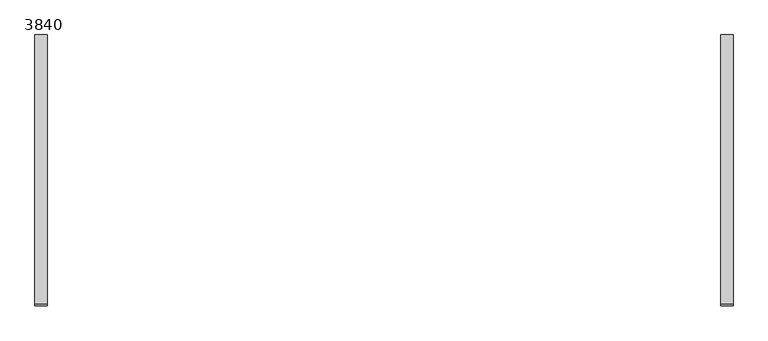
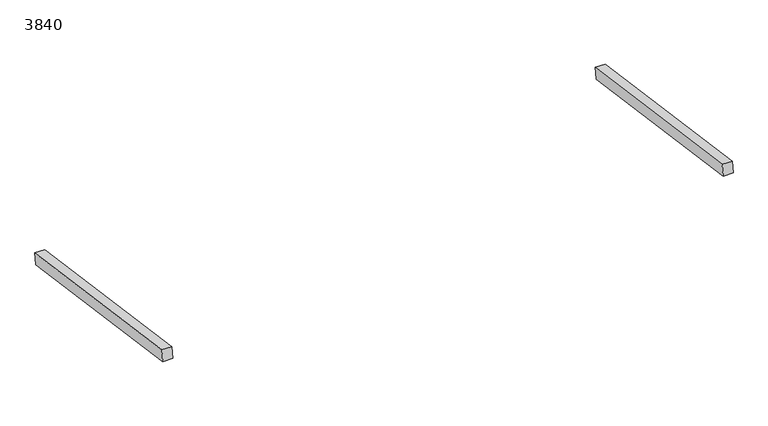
"""IFC4 building model written with IfcOpenShell, lengths in millimetres: proxy geometry, ViVa Roof Closure : 3840."""

from ifc_helpers import new_model, si_unit, frame, origin, place, context, project, spatial, polyline, outline, extrude, source, transform, mapped, element, save


def proxy_3840_485bb6b7(model_context):
    return source(origin(), model_context, "Body", "SweptSolid", [
        extrude(outline(polyline([(0.0, -70.0), (0.0, 0.0), (1550.0, 0.0), (1550.0, -70.0), (0.0, -70.0)])), frame((3840.0, -1534.9155065, 215.7183065), z_axis=(0.0, 0.13917310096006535, 0.9902680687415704), x_axis=(0.0, 0.9902680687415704, -0.13917310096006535)), (0.0, 0.0, 1.0), 80.0),
        extrude(outline(polyline([(0.0, -70.0), (0.0, 0.0), (1550.0, 0.0), (1550.0, -70.0), (0.0, -70.0)])), frame((-70.0, -1534.9155065, 215.7183065), z_axis=(0.0, 0.13917310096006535, 0.9902680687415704), x_axis=(0.0, 0.9902680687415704, -0.13917310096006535)), (0.0, 0.0, 1.0), 80.0),
    ])


if __name__ == "__main__":
    model = new_model("IFC4")
    model_context = context("Model", 3, world=origin())
    ifc_project = project(units=[si_unit("LENGTHUNIT", "METRE", prefix="MILLI")], contexts=[model_context])
    site = spatial("IfcSite", under=ifc_project)
    building = spatial("IfcBuilding", under=site)
    placement = place(None, origin())
    proxy_3840_shape = proxy_3840_485bb6b7(model_context)
    element("IfcBuildingElementProxy", 1, Name="ViVa Roof Closure : 3840", ObjectType="ViVa Roof Closure : 3840", at=placement, inside=building, context=model_context, shape_type="MappedRepresentation", body=[
        mapped(proxy_3840_shape, transform((0.0, 0.0, 0.0), x_axis=(1.0, 0.0, 0.0), y_axis=(0.0, 1.0, 0.0), z_axis=(0.0, 0.0, 1.0))),
    ])
    save(model, "model.ifc")
